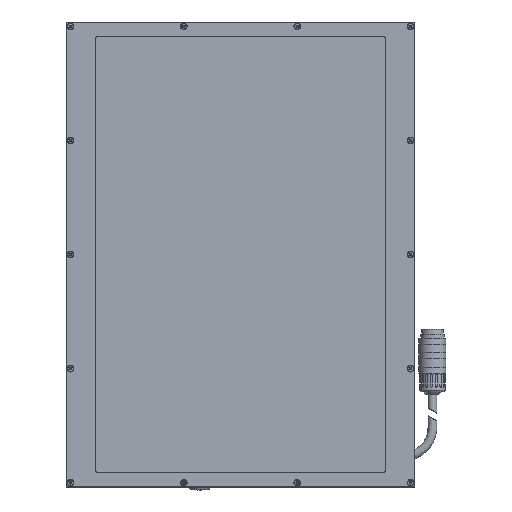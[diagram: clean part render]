
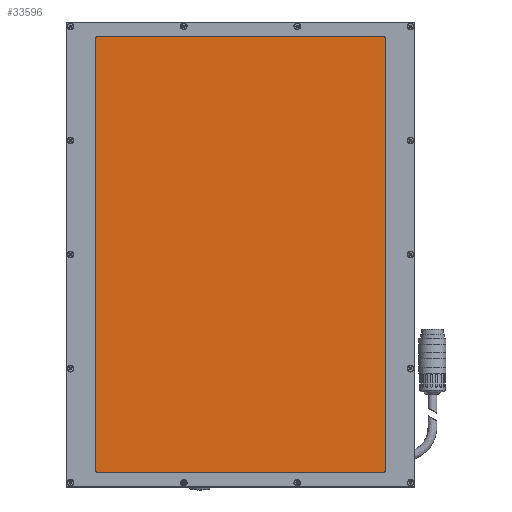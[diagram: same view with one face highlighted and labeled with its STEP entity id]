
A CAD part, top view. The second image highlights one B-rep face of the part: STEP entity #33596.
In plain terms, the highlighted planar face has unit normal (0, 0, 1).
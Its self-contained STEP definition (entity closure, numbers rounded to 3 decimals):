
#1862=LINE('',#56198,#3647);
#1866=LINE('',#56206,#3651);
#1869=LINE('',#56212,#3654);
#1872=LINE('',#56218,#3657);
#3647=VECTOR('',#41573,1000.);
#3651=VECTOR('',#41579,1000.);
#3654=VECTOR('',#41584,1000.);
#3657=VECTOR('',#41589,1000.);
#11001=ORIENTED_EDGE('',*,*,#14664,.T.);
#11002=ORIENTED_EDGE('',*,*,#14667,.T.);
#11003=ORIENTED_EDGE('',*,*,#14661,.T.);
#11004=ORIENTED_EDGE('',*,*,#14668,.T.);
#11005=ORIENTED_EDGE('',*,*,#14658,.T.);
#11006=ORIENTED_EDGE('',*,*,#14669,.T.);
#11007=ORIENTED_EDGE('',*,*,#14654,.T.);
#11008=ORIENTED_EDGE('',*,*,#14666,.T.);
#14654=EDGE_CURVE('',#17032,#17033,#1862,.T.);
#14658=EDGE_CURVE('',#17035,#17034,#1866,.T.);
#14661=EDGE_CURVE('',#17037,#17036,#1869,.T.);
#14664=EDGE_CURVE('',#17039,#17038,#1872,.T.);
#14666=EDGE_CURVE('',#17033,#17039,#18058,.T.);
#14667=EDGE_CURVE('',#17038,#17037,#18059,.T.);
#14668=EDGE_CURVE('',#17036,#17035,#18060,.T.);
#14669=EDGE_CURVE('',#17034,#17032,#18061,.T.);
#17032=VERTEX_POINT('',#56199);
#17033=VERTEX_POINT('',#56200);
#17034=VERTEX_POINT('',#56205);
#17035=VERTEX_POINT('',#56207);
#17036=VERTEX_POINT('',#56211);
#17037=VERTEX_POINT('',#56213);
#17038=VERTEX_POINT('',#56217);
#17039=VERTEX_POINT('',#56219);
#18058=CIRCLE('',#35753,2.);
#18059=CIRCLE('',#35755,2.);
#18060=CIRCLE('',#35757,2.);
#18061=CIRCLE('',#35759,2.);
#19628=EDGE_LOOP('',(#11001,#11002,#11003,#11004,#11005,#11006,#11007,#11008));
#21467=FACE_BOUND('',#19628,.T.);
#22462=PLANE('',#35760);
#33596=ADVANCED_FACE('',(#21467),#22462,.T.);
#35753=AXIS2_PLACEMENT_3D('',#56222,#41593,#41594);
#35755=AXIS2_PLACEMENT_3D('',#56224,#41597,#41598);
#35757=AXIS2_PLACEMENT_3D('',#56226,#41601,#41602);
#35759=AXIS2_PLACEMENT_3D('',#56228,#41605,#41606);
#35760=AXIS2_PLACEMENT_3D('',#56229,#41607,#41608);
#41573=DIRECTION('',(-1.,0.,0.));
#41579=DIRECTION('',(0.,1.,0.));
#41584=DIRECTION('',(1.,0.,0.));
#41589=DIRECTION('',(0.,-1.,0.));
#41593=DIRECTION('',(0.,0.,1.));
#41594=DIRECTION('',(1.,0.,0.));
#41597=DIRECTION('',(0.,0.,1.));
#41598=DIRECTION('',(1.,0.,0.));
#41601=DIRECTION('',(0.,0.,1.));
#41602=DIRECTION('',(1.,0.,0.));
#41605=DIRECTION('',(0.,0.,1.));
#41606=DIRECTION('',(1.,0.,0.));
#41607=DIRECTION('',(0.,0.,1.));
#41608=DIRECTION('',(1.,0.,0.));
#56198=CARTESIAN_POINT('',(100.5,150.5,23.8));
#56199=CARTESIAN_POINT('',(98.5,150.5,23.8));
#56200=CARTESIAN_POINT('',(-98.5,150.5,23.8));
#56205=CARTESIAN_POINT('',(100.5,148.5,23.8));
#56206=CARTESIAN_POINT('',(100.5,-150.5,23.8));
#56207=CARTESIAN_POINT('',(100.5,-148.5,23.8));
#56211=CARTESIAN_POINT('',(98.5,-150.5,23.8));
#56212=CARTESIAN_POINT('',(-100.5,-150.5,23.8));
#56213=CARTESIAN_POINT('',(-98.5,-150.5,23.8));
#56217=CARTESIAN_POINT('',(-100.5,-148.5,23.8));
#56218=CARTESIAN_POINT('',(-100.5,150.5,23.8));
#56219=CARTESIAN_POINT('',(-100.5,148.5,23.8));
#56222=CARTESIAN_POINT('',(-98.5,148.5,23.8));
#56224=CARTESIAN_POINT('',(-98.5,-148.5,23.8));
#56226=CARTESIAN_POINT('',(98.5,-148.5,23.8));
#56228=CARTESIAN_POINT('',(98.5,148.5,23.8));
#56229=CARTESIAN_POINT('',(0.,0.,23.8));
